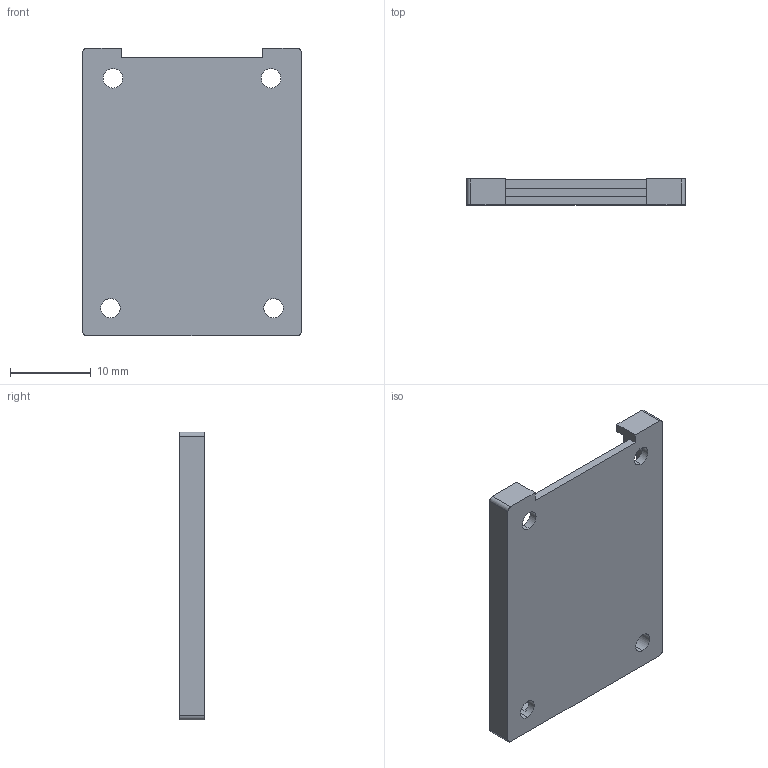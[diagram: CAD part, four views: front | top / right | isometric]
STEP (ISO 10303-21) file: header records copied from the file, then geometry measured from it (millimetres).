
FILE_DESCRIPTION (( 'STEP AP203' ), '1' );
FILE_NAME ('bracket 101810.STEP', '2011-08-17T16:37:51', ( 'Roy Buck' ), ( 'Analog Devices Inc.' ), 'SwSTEP 2.0', 'SolidWorks 2009', '' );
FILE_SCHEMA (( 'CONFIG_CONTROL_DESIGN' ));
Length unit declared in the file: millimetre
Products named in the file (1): bracket 101810
Bounding box: 26.99 x 3.17 x 35.54 mm (x, y, z)
Volume: 1299 mm3; surface area: 2437.7 mm2
Topology: 1 solids, 1 shells, 42 faces, 130 edges, 86 vertices
Faces by surface type: plane 22, cylinder 20
Entity records: 1557 total; most frequent: DIRECTION 262, ORIENTED_EDGE 260, CARTESIAN_POINT 259, EDGE_CURVE 130, AXIS2_PLACEMENT_3D 89, VERTEX_POINT 86, VECTOR 84, LINE 84
